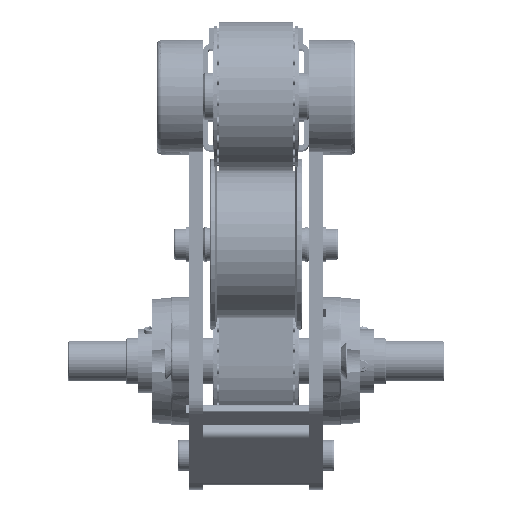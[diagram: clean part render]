
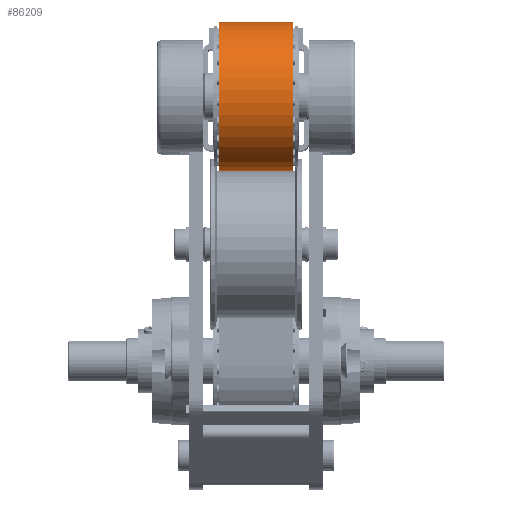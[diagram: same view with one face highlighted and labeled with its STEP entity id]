
A CAD part, top view. The second image highlights one B-rep face of the part: STEP entity #86209.
In plain terms, the highlighted cylindrical face has radius 31.75 mm (diameter 63.5 mm), a partial arc.
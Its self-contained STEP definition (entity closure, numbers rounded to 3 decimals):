
#863 = VECTOR ( 'NONE', #116240, 1000. ) ;
#1556 = VERTEX_POINT ( 'NONE', #69759 ) ;
#3591 = DIRECTION ( 'NONE',  ( 0., 1., 0. ) ) ;
#3937 = LINE ( 'NONE', #42598, #863 ) ;
#5422 = AXIS2_PLACEMENT_3D ( 'NONE', #71065, #41897, #80548 ) ;
#5455 = DIRECTION ( 'NONE',  ( 0., 0., 1. ) ) ;
#9163 = VERTEX_POINT ( 'NONE', #25110 ) ;
#9834 = VECTOR ( 'NONE', #100636, 1000. ) ;
#23640 = CIRCLE ( 'NONE', #5422, 31.75 ) ;
#25110 = CARTESIAN_POINT ( 'NONE',  ( 0.382, -31.748, -16. ) ) ;
#26029 = EDGE_CURVE ( 'NONE', #80010, #9163, #108266, .T. ) ;
#27534 = VERTEX_POINT ( 'NONE', #90789 ) ;
#32354 = DIRECTION ( 'NONE',  ( 1., 0., 0. ) ) ;
#41897 = DIRECTION ( 'NONE',  ( 0., 0., 1. ) ) ;
#42598 = CARTESIAN_POINT ( 'NONE',  ( 0., 31.75, -16. ) ) ;
#42979 = AXIS2_PLACEMENT_3D ( 'NONE', #110434, #5455, #3591 ) ;
#54283 = EDGE_CURVE ( 'NONE', #27534, #80010, #105475, .T. ) ;
#59638 = ORIENTED_EDGE ( 'NONE', *, *, #123999, .T. ) ;
#61400 = DIRECTION ( 'NONE',  ( 0., 0., 1. ) ) ;
#66606 = ORIENTED_EDGE ( 'NONE', *, *, #54283, .F. ) ;
#69759 = CARTESIAN_POINT ( 'NONE',  ( 0., 31.75, -16. ) ) ;
#71065 = CARTESIAN_POINT ( 'NONE',  ( 0., 0., -16. ) ) ;
#79873 = FACE_OUTER_BOUND ( 'NONE', #124454, .T. ) ;
#80010 = VERTEX_POINT ( 'NONE', #111883 ) ;
#80548 = DIRECTION ( 'NONE',  ( 0., 1., 0. ) ) ;
#81225 = CARTESIAN_POINT ( 'NONE',  ( 0.382, -31.748, -16. ) ) ;
#86209 = ADVANCED_FACE ( 'NONE', ( #79873 ), #118259, .T. ) ;
#86802 = AXIS2_PLACEMENT_3D ( 'NONE', #118913, #61400, #32354 ) ;
#90765 = ORIENTED_EDGE ( 'NONE', *, *, #26029, .F. ) ;
#90789 = CARTESIAN_POINT ( 'NONE',  ( 0., 31.75, 16. ) ) ;
#95604 = EDGE_CURVE ( 'NONE', #27534, #1556, #3937, .T. ) ;
#100636 = DIRECTION ( 'NONE',  ( 0., 0., -1. ) ) ;
#103120 = ORIENTED_EDGE ( 'NONE', *, *, #95604, .T. ) ;
#105475 = CIRCLE ( 'NONE', #42979, 31.75 ) ;
#108266 = LINE ( 'NONE', #81225, #9834 ) ;
#110434 = CARTESIAN_POINT ( 'NONE',  ( 0., 0., 16. ) ) ;
#111883 = CARTESIAN_POINT ( 'NONE',  ( 0.382, -31.748, 16. ) ) ;
#116240 = DIRECTION ( 'NONE',  ( 0., 0., -1. ) ) ;
#118259 = CYLINDRICAL_SURFACE ( 'NONE', #86802, 31.75 ) ;
#118913 = CARTESIAN_POINT ( 'NONE',  ( 0., 0., 0. ) ) ;
#123999 = EDGE_CURVE ( 'NONE', #1556, #9163, #23640, .T. ) ;
#124454 = EDGE_LOOP ( 'NONE', ( #59638, #90765, #66606, #103120 ) ) ;
